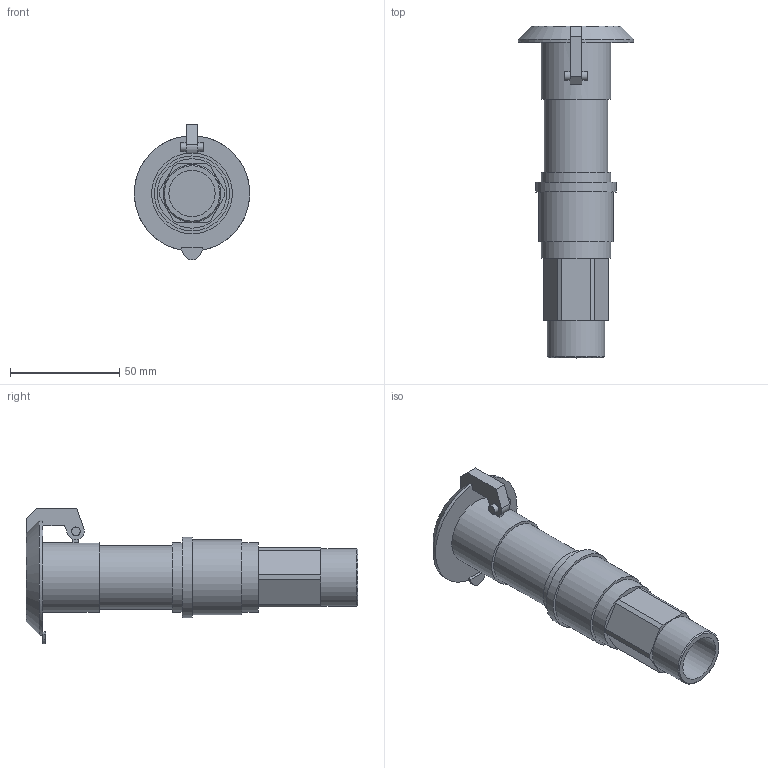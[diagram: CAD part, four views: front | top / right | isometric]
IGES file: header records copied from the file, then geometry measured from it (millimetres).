
Global section: file name: 03039037.ipt; native system: Autodesk Inventor 2015; preprocessor: unknown; author: KIM; date: 20180617.111937; units: millimetre
Bounding box: 52.83 x 152 x 62.12 mm (x, y, z)
Volume: 114808.7 mm3; surface area: 21716.8 mm2
Topology: 1 solids, 1 shells, 58 faces, 132 edges, 87 vertices
Faces by surface type: plane 43, cylinder 12, cone 2, revolution 1
Full cylindrical faces by diameter (mm): 3.966 x2, 26.441 x1, 29.085 x1, 31.729 x3, 34.373 x1, 37.017 x1
